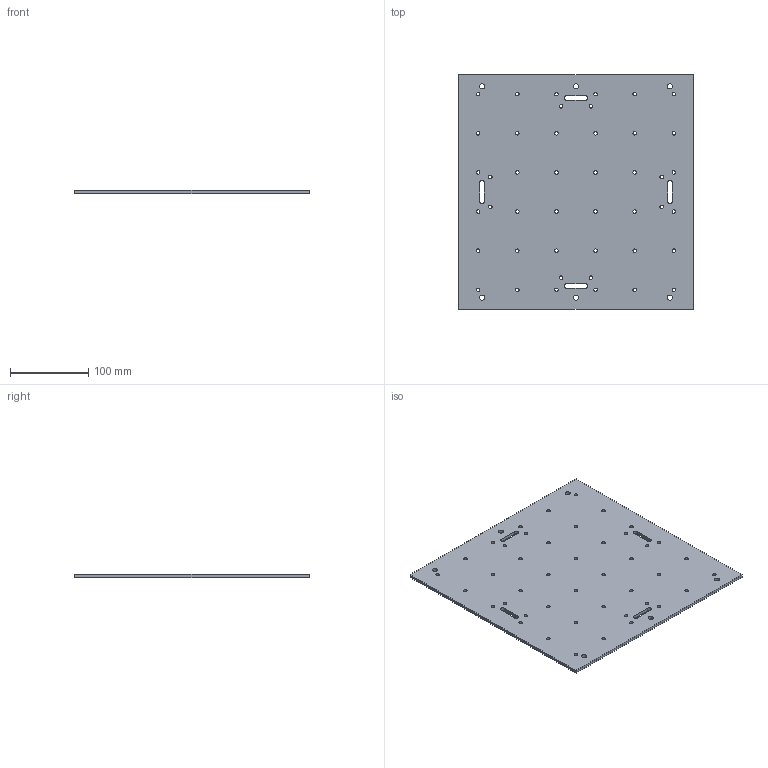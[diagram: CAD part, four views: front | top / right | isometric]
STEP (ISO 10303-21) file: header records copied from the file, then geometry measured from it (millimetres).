
FILE_DESCRIPTION(('FreeCAD Model'),'2;1');
FILE_NAME('Open CASCADE Shape Model','2026-09-21T20:46:49',('FreeCAD'),( 'FreeCAD'),'Open CASCADE STEP processor 7.8','FreeCAD','Unknown');
FILE_SCHEMA(('AUTOMOTIVE_DESIGN { 1 0 10303 214 1 1 1 1 }'));
Length unit declared in the file: millimetre
Products named in the file (1): Open CASCADE STEP translator 7.8 1
Bounding box: 300 x 300 x 4 mm (x, y, z)
Volume: 353623.4 mm3; surface area: 185667 mm2
Topology: 1 solids, 1 shells, 72 faces, 218 edges, 148 vertices
Faces by surface type: cylinder 58, plane 14
Full cylindrical faces by diameter (mm): 4.5 x44, 6.6 x6
Entity records: 2756 total; most frequent: DIRECTION 488, CARTESIAN_POINT 439, ORIENTED_EDGE 436, EDGE_CURVE 218, AXIS2_PLACEMENT_3D 197, FACE_BOUND 180, EDGE_LOOP 180, VERTEX_POINT 148
